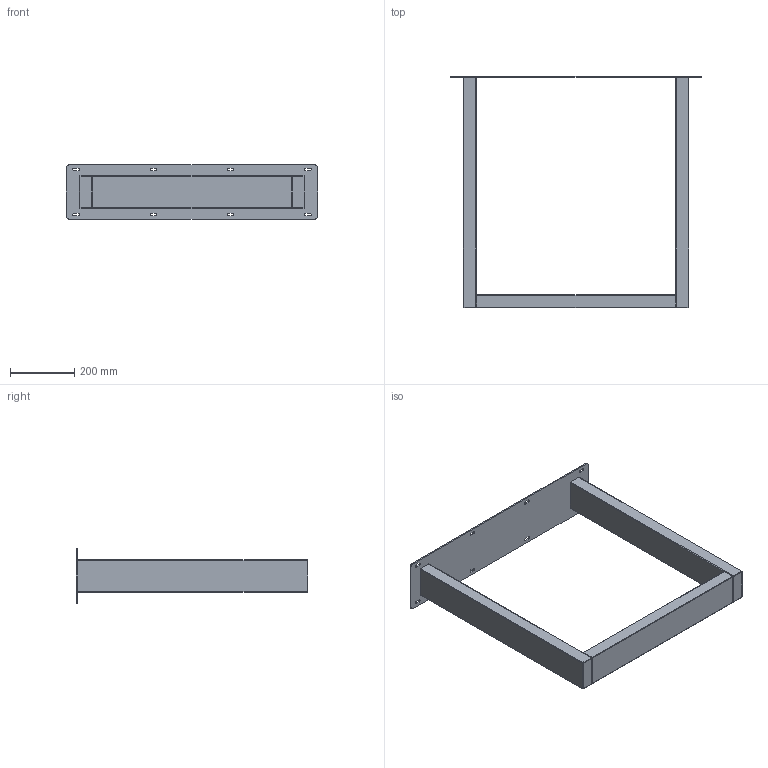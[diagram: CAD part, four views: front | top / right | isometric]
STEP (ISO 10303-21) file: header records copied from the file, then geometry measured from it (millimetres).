
FILE_DESCRIPTION(/* description */ (''),/* implementation_level */ '2;1');
FILE_NAME(/* name */ 'Metalluntergestell Ironline Fineline U.step',/* time_stamp */ '2023-12-20T09:13:42+01:00',/* author */ (''),/* organization */ (''),/* preprocessor_version */ 'ST-DEVELOPER v20',/* originating_system */ 'Autodesk Translation Framework v12.9.0.99',/* authorisation */ '');
FILE_SCHEMA (('AUTOMOTIVE_DESIGN { 1 0 10303 214 3 1 1 }'));
Length unit declared in the file: millimetre
Products named in the file (1): Metalluntergestell Ironline Fineline U
Bounding box: 780 x 720 x 170 mm (x, y, z)
Volume: 8724909.6 mm3; surface area: 862148.5 mm2
Topology: 4 solids, 4 shells, 104 faces, 240 edges, 144 vertices
Faces by surface type: cylinder 48, plane 40, sphere 16
Entity records: 2978 total; most frequent: DIRECTION 546, CARTESIAN_POINT 489, ORIENTED_EDGE 480, EDGE_CURVE 240, AXIS2_PLACEMENT_3D 201, LINE 144, VECTOR 144, VERTEX_POINT 144
